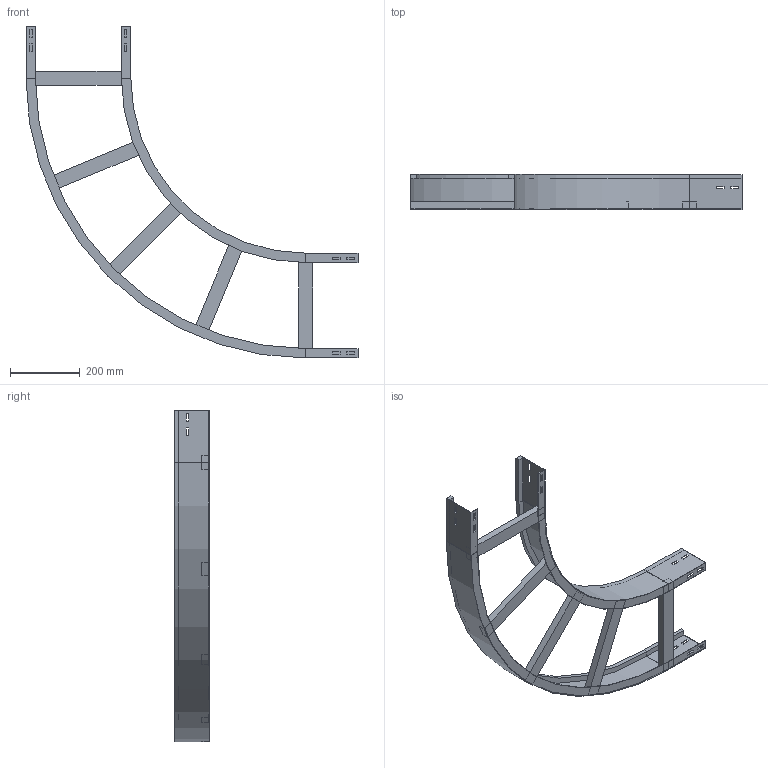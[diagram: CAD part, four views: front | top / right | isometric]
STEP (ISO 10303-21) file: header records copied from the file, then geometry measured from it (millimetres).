
FILE_DESCRIPTION (( 'STEP AP214' ), '1' );
FILE_NAME ('10B5D300.step', '2025-02-21T15:22:17', ( '' ), ( '' ), 'SwSTEP 2.0', 'SolidWorks 2023', '' );
FILE_SCHEMA (( 'AUTOMOTIVE_DESIGN' ));
Length unit declared in the file: millimetre
Products named in the file (4): TRAVERSINO_300; 10B5D300; A2_LONGH.INTERNO 90°_H100_R500; A2_LONGH.ESTERNO 90°_H100_R500+300
Assembly tree (7 placements, depth 2):
  10B5D300
    A2_LONGH.INTERNO 90°_H100_R500
    A2_LONGH.ESTERNO 90°_H100_R500+300
    TRAVERSINO_300  x5
Bounding box: 950 x 100 x 950 mm (x, y, z)
Volume: 2361651.6 mm3; surface area: 941498.1 mm2
Topology: 7 solids, 7 shells, 146 faces, 364 edges, 232 vertices
Faces by surface type: plane 138, cylinder 8
Entity records: 3837 total; most frequent: CARTESIAN_POINT 648, ORIENTED_EDGE 632, DIRECTION 596, EDGE_CURVE 316, VECTOR 300, LINE 300, VERTEX_POINT 200, EDGE_LOOP 154
